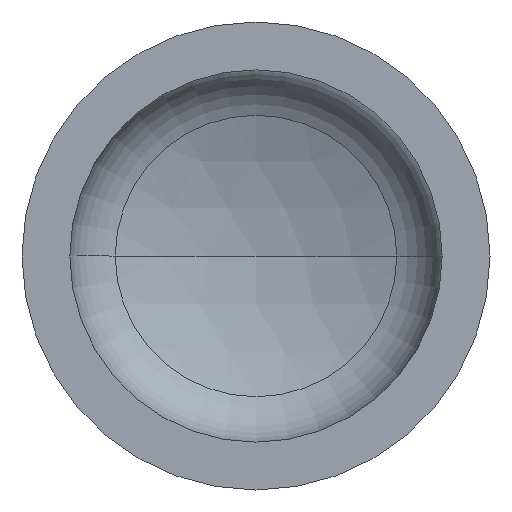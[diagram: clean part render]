
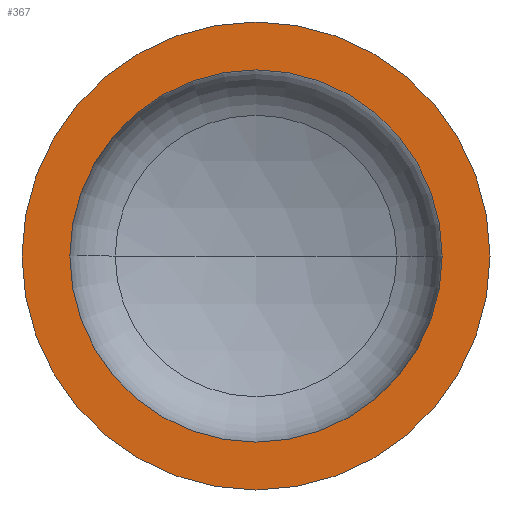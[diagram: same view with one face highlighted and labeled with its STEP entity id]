
A CAD part, front view. The second image highlights one B-rep face of the part: STEP entity #367.
In plain terms, the highlighted planar face has unit normal (0, -1, 0).
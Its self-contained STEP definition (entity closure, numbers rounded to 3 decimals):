
#3 = AXIS2_PLACEMENT_3D ( 'NONE', #264, #96, #46 ) ;
#4 = AXIS2_PLACEMENT_3D ( 'NONE', #80, #305, #187 ) ;
#11 = EDGE_LOOP ( 'NONE', ( #52, #200 ) ) ;
#37 = AXIS2_PLACEMENT_3D ( 'NONE', #245, #243, #277 ) ;
#46 = DIRECTION ( 'NONE',  ( -1., 0., 0. ) ) ;
#49 = VERTEX_POINT ( 'NONE', #242 ) ;
#52 = ORIENTED_EDGE ( 'NONE', *, *, #267, .T. ) ;
#57 = AXIS2_PLACEMENT_3D ( 'NONE', #368, #369, #307 ) ;
#59 = AXIS2_PLACEMENT_3D ( 'NONE', #334, #342, #341 ) ;
#79 = EDGE_CURVE ( 'NONE', #156, #223, #274, .T. ) ;
#80 = CARTESIAN_POINT ( 'NONE',  ( 0., 0., 0. ) ) ;
#81 = EDGE_CURVE ( 'NONE', #189, #49, #346, .T. ) ;
#90 = EDGE_LOOP ( 'NONE', ( #217, #240 ) ) ;
#96 = DIRECTION ( 'NONE',  ( 0., 1., 0. ) ) ;
#122 = CIRCLE ( 'NONE', #4, 358. ) ;
#138 = PLANE ( 'NONE',  #3 ) ;
#156 = VERTEX_POINT ( 'NONE', #177 ) ;
#177 = CARTESIAN_POINT ( 'NONE',  ( -450., 0., 0. ) ) ;
#187 = DIRECTION ( 'NONE',  ( 1., 0., 0. ) ) ;
#189 = VERTEX_POINT ( 'NONE', #201 ) ;
#200 = ORIENTED_EDGE ( 'NONE', *, *, #79, .T. ) ;
#201 = CARTESIAN_POINT ( 'NONE',  ( 358., 0., 0. ) ) ;
#217 = ORIENTED_EDGE ( 'NONE', *, *, #81, .F. ) ;
#223 = VERTEX_POINT ( 'NONE', #381 ) ;
#240 = ORIENTED_EDGE ( 'NONE', *, *, #378, .F. ) ;
#242 = CARTESIAN_POINT ( 'NONE',  ( -358., 0., 0. ) ) ;
#243 = DIRECTION ( 'NONE',  ( 0., -1., 0. ) ) ;
#245 = CARTESIAN_POINT ( 'NONE',  ( 0., 0., 0. ) ) ;
#264 = CARTESIAN_POINT ( 'NONE',  ( -450., 0., 0. ) ) ;
#267 = EDGE_CURVE ( 'NONE', #223, #156, #324, .T. ) ;
#274 = CIRCLE ( 'NONE', #59, 450. ) ;
#277 = DIRECTION ( 'NONE',  ( 1., 0., 0. ) ) ;
#305 = DIRECTION ( 'NONE',  ( 0., -1., 0. ) ) ;
#307 = DIRECTION ( 'NONE',  ( 1., 0., 0. ) ) ;
#324 = CIRCLE ( 'NONE', #37, 450. ) ;
#334 = CARTESIAN_POINT ( 'NONE',  ( 0., 0., 0. ) ) ;
#341 = DIRECTION ( 'NONE',  ( 1., 0., 0. ) ) ;
#342 = DIRECTION ( 'NONE',  ( 0., -1., 0. ) ) ;
#346 = CIRCLE ( 'NONE', #57, 358. ) ;
#358 = FACE_OUTER_BOUND ( 'NONE', #11, .T. ) ;
#367 = ADVANCED_FACE ( 'NONE', ( #410, #358 ), #138, .F. ) ;
#368 = CARTESIAN_POINT ( 'NONE',  ( 0., 0., 0. ) ) ;
#369 = DIRECTION ( 'NONE',  ( 0., -1., 0. ) ) ;
#378 = EDGE_CURVE ( 'NONE', #49, #189, #122, .T. ) ;
#381 = CARTESIAN_POINT ( 'NONE',  ( 450., 0., 0. ) ) ;
#410 = FACE_BOUND ( 'NONE', #90, .T. ) ;
